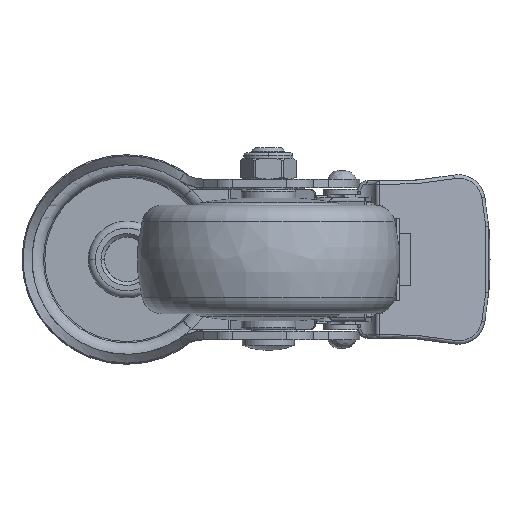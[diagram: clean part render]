
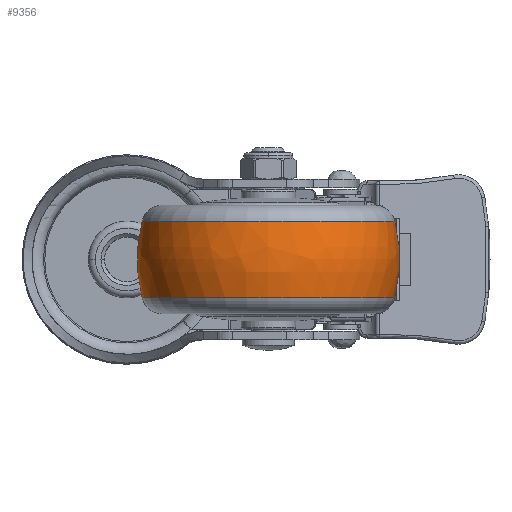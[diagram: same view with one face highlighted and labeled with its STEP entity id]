
A CAD part, front view. The second image highlights one B-rep face of the part: STEP entity #9356.
In plain terms, the highlighted free-form (B-spline) face has degree [3, 3] with [7, 4] control points.
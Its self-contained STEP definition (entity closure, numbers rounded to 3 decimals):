
#8665=CARTESIAN_POINT('',(-10.962,0.,0.));
#8666=DIRECTION('',(-1.,0.,0.));
#8667=DIRECTION('',(0.,1.,0.));
#8668=AXIS2_PLACEMENT_3D('',#8665,#8666,#8667);
#8680=CARTESIAN_POINT('',(0.,-7.5,0.));
#8681=DIRECTION('',(0.,0.,1.));
#8682=DIRECTION('',(0.244,0.97,0.));
#8683=AXIS2_PLACEMENT_3D('',#8680,#8681,#8682);
#8685=CARTESIAN_POINT('',(0.,7.5,0.));
#8686=DIRECTION('',(0.,0.,-1.));
#8687=DIRECTION('',(0.244,-0.97,0.));
#8688=AXIS2_PLACEMENT_3D('',#8685,#8686,#8687);
#8690=CARTESIAN_POINT('',(10.962,0.,0.));
#8691=DIRECTION('',(-1.,0.,0.));
#8692=DIRECTION('',(0.,1.,0.));
#8693=AXIS2_PLACEMENT_3D('',#8690,#8691,#8692);
#8930=CARTESIAN_POINT('',(10.962,36.145,0.));
#8932=VERTEX_POINT('',#8930);
#8933=CARTESIAN_POINT('',(-10.962,36.145,0.));
#8934=VERTEX_POINT('',#8933);
#8978=CARTESIAN_POINT('',(10.962,-36.145,0.));
#8980=VERTEX_POINT('',#8978);
#8981=CARTESIAN_POINT('',(-10.962,-36.145,0.));
#8982=VERTEX_POINT('',#8981);
#9320=CARTESIAN_POINT('',(-11.391,-35.963,
2.263));
#9321=CARTESIAN_POINT('',(-3.881,-37.924,
2.386));
#9322=CARTESIAN_POINT('',(3.881,-37.924,2.386));
#9323=CARTESIAN_POINT('',(11.391,-35.963,2.263));
#9324=CARTESIAN_POINT('',(-11.391,-37.356,
-19.869));
#9325=CARTESIAN_POINT('',(-3.881,-39.393,
-20.953));
#9326=CARTESIAN_POINT('',(3.881,-39.393,
-20.953));
#9327=CARTESIAN_POINT('',(11.391,-37.356,
-19.869));
#9328=CARTESIAN_POINT('',(-11.391,-22.176,
-36.035));
#9329=CARTESIAN_POINT('',(-3.881,-23.385,
-37.999));
#9330=CARTESIAN_POINT('',(3.881,-23.385,
-37.999));
#9331=CARTESIAN_POINT('',(11.391,-22.176,
-36.035));
#9332=CARTESIAN_POINT('',(-11.391,0.,-36.035));
#9333=CARTESIAN_POINT('',(-3.881,0.,-37.999));
#9334=CARTESIAN_POINT('',(3.881,0.,-37.999));
#9335=CARTESIAN_POINT('',(11.391,0.,-36.035));
#9336=CARTESIAN_POINT('',(-11.391,22.176,
-36.035));
#9337=CARTESIAN_POINT('',(-3.881,23.385,
-37.999));
#9338=CARTESIAN_POINT('',(3.881,23.385,-37.999));
#9339=CARTESIAN_POINT('',(11.391,22.176,-36.035));
#9340=CARTESIAN_POINT('',(-11.391,37.356,
-19.869));
#9341=CARTESIAN_POINT('',(-3.881,39.393,
-20.953));
#9342=CARTESIAN_POINT('',(3.881,39.393,-20.953));
#9343=CARTESIAN_POINT('',(11.391,37.356,-19.869));
#9344=CARTESIAN_POINT('',(-11.391,35.963,2.263));
#9345=CARTESIAN_POINT('',(-3.881,37.924,2.386));
#9346=CARTESIAN_POINT('',(3.881,37.924,2.386));
#9347=CARTESIAN_POINT('',(11.391,35.963,2.263));
#9348=(BOUNDED_SURFACE()B_SPLINE_SURFACE(3,3,((#9320,#9321,#9322,#9323),(#9324,
#9325,#9326,#9327),(#9328,#9329,#9330,#9331),(#9332,#9333,#9334,#9335),(#9336,
#9337,#9338,#9339),(#9340,#9341,#9342,#9343),(#9344,#9345,#9346,#9347)),
.UNSPECIFIED.,.F.,.F.,.F.)B_SPLINE_SURFACE_WITH_KNOTS((4,3,4),(4,4),(0.,1.,
2.),(0.,1.),.UNSPECIFIED.)GEOMETRIC_REPRESENTATION_ITEM()RATIONAL_B_SPLINE_SURFACE(((1.207,1.181,1.181,1.207),(
0.953,0.932,0.932,0.953),(
0.953,0.932,0.932,0.953),(
1.207,1.181,1.181,1.207),(
0.953,0.932,0.932,0.953),(
0.953,0.932,0.932,0.953),(
1.207,1.181,1.181,1.207)))REPRESENTATION_ITEM('')SURFACE());
#9349=ORIENTED_EDGE('',*,*,#9310,.T.);
#9350=ORIENTED_EDGE('',*,*,#9263,.T.);
#9351=ORIENTED_EDGE('',*,*,#9314,.F.);
#9353=ORIENTED_EDGE('',*,*,#9352,.F.);
#9354=EDGE_LOOP('',(#9349,#9350,#9351,#9353));
#9355=FACE_OUTER_BOUND('',#9354,.F.);
#8669=CIRCLE('',#8668,36.145);
#8684=CIRCLE('',#8683,45.);
#8689=CIRCLE('',#8688,45.);
#8694=CIRCLE('',#8693,36.145);
#9263=EDGE_CURVE('',#8934,#8982,#8669,.T.);
#9310=EDGE_CURVE('',#8932,#8934,#8684,.T.);
#9314=EDGE_CURVE('',#8980,#8982,#8689,.T.);
#9352=EDGE_CURVE('',#8932,#8980,#8694,.T.);
#9356=ADVANCED_FACE('',(#9355),#9348,.T.);
